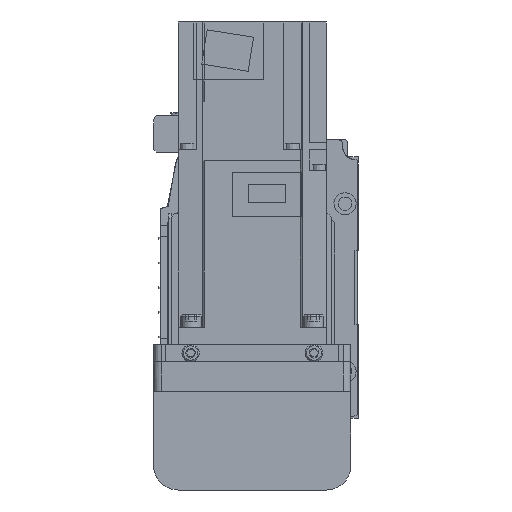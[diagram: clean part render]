
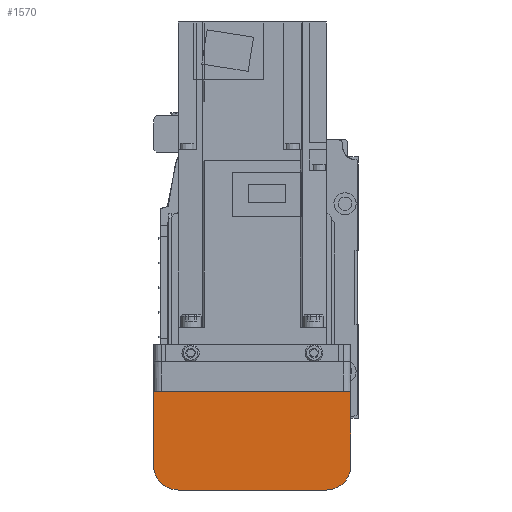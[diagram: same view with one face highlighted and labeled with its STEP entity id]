
A CAD part, left-side view. The second image highlights one B-rep face of the part: STEP entity #1570.
In plain terms, the highlighted planar face has unit normal (-1, 0, 0).
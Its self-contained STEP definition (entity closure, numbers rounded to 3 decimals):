
#1570 = ADVANCED_FACE( '', ( #3612 ), #3613, .F. );
#3612 = FACE_OUTER_BOUND( '', #6220, .T. );
#3613 = PLANE( '', #6221 );
#6220 = EDGE_LOOP( '', ( #10497, #10498, #10499, #10500, #10501, #10502 ) );
#6221 = AXIS2_PLACEMENT_3D( '', #10503, #10504, #10505 );
#10497 = ORIENTED_EDGE( '', *, *, #15977, .F. );
#10498 = ORIENTED_EDGE( '', *, *, #15978, .F. );
#10499 = ORIENTED_EDGE( '', *, *, #15979, .F. );
#10500 = ORIENTED_EDGE( '', *, *, #15980, .F. );
#10501 = ORIENTED_EDGE( '', *, *, #15981, .F. );
#10502 = ORIENTED_EDGE( '', *, *, #15577, .F. );
#10503 = CARTESIAN_POINT( '', ( -192., 37., 7. ) );
#10504 = DIRECTION( '', ( 1., 0., 0. ) );
#10505 = DIRECTION( '', ( 0., 0., -1. ) );
#15577 = EDGE_CURVE( '', #17324, #18933, #18934, .T. );
#15977 = EDGE_CURVE( '', #17693, #17324, #19533, .T. );
#15978 = EDGE_CURVE( '', #19534, #17693, #19535, .T. );
#15979 = EDGE_CURVE( '', #19536, #19534, #19537, .T. );
#15980 = EDGE_CURVE( '', #19538, #19536, #19539, .T. );
#15981 = EDGE_CURVE( '', #18933, #19538, #19540, .T. );
#17324 = VERTEX_POINT( '', #21224 );
#17693 = VERTEX_POINT( '', #21703 );
#18933 = VERTEX_POINT( '', #23353 );
#18934 = LINE( '', #23354, #23355 );
#19533 = LINE( '', #24164, #24165 );
#19534 = VERTEX_POINT( '', #24166 );
#19535 = LINE( '', #24167, #24168 );
#19536 = VERTEX_POINT( '', #24169 );
#19537 = CIRCLE( '', #24170, 10. );
#19538 = VERTEX_POINT( '', #24171 );
#19539 = LINE( '', #24172, #24173 );
#19540 = CIRCLE( '', #24174, 10. );
#21224 = CARTESIAN_POINT( '', ( -192., -40., -12.1 ) );
#21703 = CARTESIAN_POINT( '', ( -192., 40., -12.1 ) );
#23353 = CARTESIAN_POINT( '', ( -192., -40., -42. ) );
#23354 = CARTESIAN_POINT( '', ( -192., -40., -12.1 ) );
#23355 = VECTOR( '', #27410, 1000. );
#24164 = CARTESIAN_POINT( '', ( -192., 50., -12.1 ) );
#24165 = VECTOR( '', #27885, 1000. );
#24166 = CARTESIAN_POINT( '', ( -192., 40., -42. ) );
#24167 = CARTESIAN_POINT( '', ( -192., 40., -42. ) );
#24168 = VECTOR( '', #27886, 1000. );
#24169 = CARTESIAN_POINT( '', ( -192., 30., -52. ) );
#24170 = AXIS2_PLACEMENT_3D( '', #27887, #27888, #27889 );
#24171 = CARTESIAN_POINT( '', ( -192., -30., -52. ) );
#24172 = CARTESIAN_POINT( '', ( -192., -30., -52. ) );
#24173 = VECTOR( '', #27890, 1000. );
#24174 = AXIS2_PLACEMENT_3D( '', #27891, #27892, #27893 );
#27410 = DIRECTION( '', ( 0., 0., -1. ) );
#27885 = DIRECTION( '', ( 0., -1., 0. ) );
#27886 = DIRECTION( '', ( 0., 0., 1. ) );
#27887 = CARTESIAN_POINT( '', ( -192., 30., -42. ) );
#27888 = DIRECTION( '', ( 1., 0., 0. ) );
#27889 = DIRECTION( '', ( 0., 0., -1. ) );
#27890 = DIRECTION( '', ( 0., 1., 0. ) );
#27891 = CARTESIAN_POINT( '', ( -192., -30., -42. ) );
#27892 = DIRECTION( '', ( 1., 0., 0. ) );
#27893 = DIRECTION( '', ( 0., 0., -1. ) );
